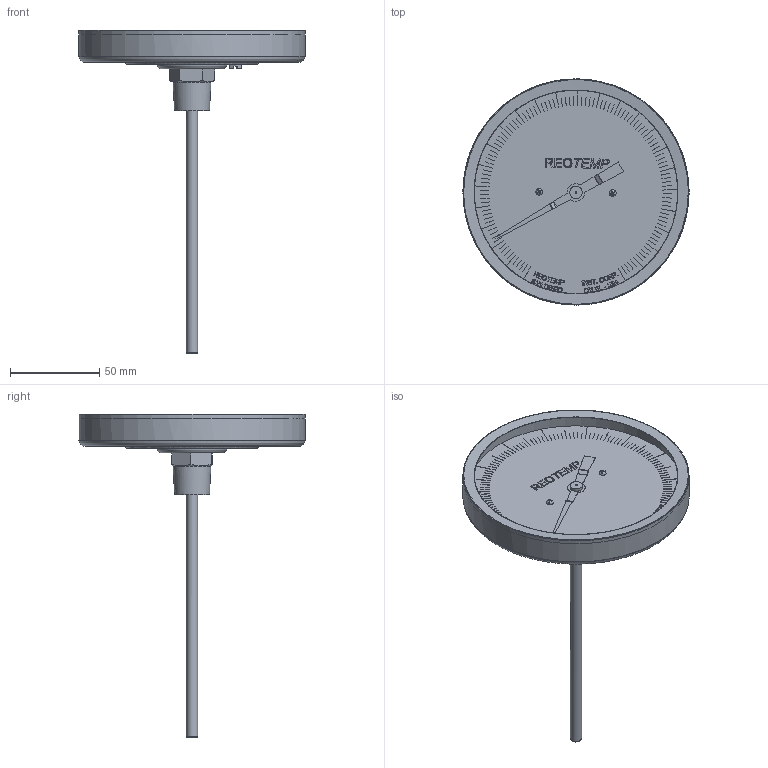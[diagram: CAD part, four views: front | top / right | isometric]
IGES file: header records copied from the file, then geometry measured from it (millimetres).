
Global section: file name: BB-half-NPT-IGS; native system: Autodesk Inventor 2014; preprocessor: unknown; author: Charles; date: 20151109.110729; units: inch
Bounding box: 127 x 126.99 x 181.77 mm (x, y, z)
Volume: 92509.4 mm3; surface area: 70771.4 mm2
Topology: 16 solids, 16 shells, 1273 faces, 3299 edges, 2197 vertices
Faces by surface type: bspline 1273
